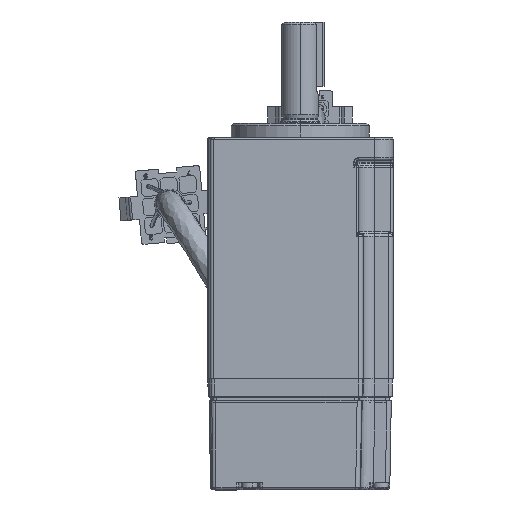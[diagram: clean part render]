
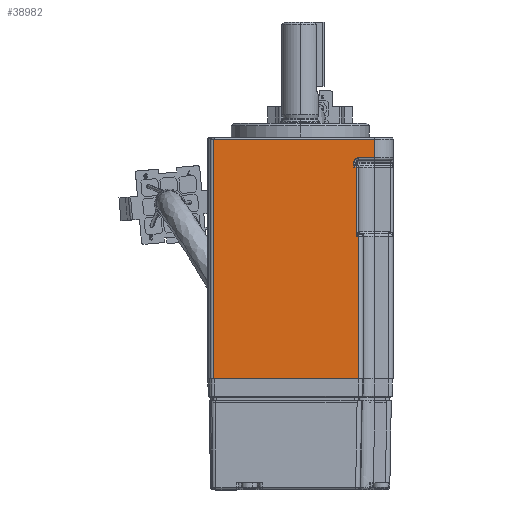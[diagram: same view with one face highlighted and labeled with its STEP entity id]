
A CAD part, front view. The second image highlights one B-rep face of the part: STEP entity #38982.
In plain terms, the highlighted planar face has unit normal (0, -1, 0).
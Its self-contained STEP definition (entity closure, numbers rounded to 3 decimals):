
#344 = CARTESIAN_POINT ( 'NONE',  ( 12.143, -20.15, -9.5 ) ) ;
#610 = ORIENTED_EDGE ( 'NONE', *, *, #29015, .T. ) ;
#612 = VERTEX_POINT ( 'NONE', #15211 ) ;
#2943 =( BOUNDED_CURVE ( )  B_SPLINE_CURVE ( 3, ( #13987, #27383, #28171, #50969 ),
 .UNSPECIFIED., .F., .F. ) 
 B_SPLINE_CURVE_WITH_KNOTS ( ( 4, 4 ),
 ( 3.142, 4.712 ),
 .UNSPECIFIED. ) 
 CURVE ( )  GEOMETRIC_REPRESENTATION_ITEM ( )  RATIONAL_B_SPLINE_CURVE ( ( 1., 0.805, 0.805, 1. ) ) 
 REPRESENTATION_ITEM ( '' )  );
#3367 = CARTESIAN_POINT ( 'NONE',  ( -18.695, -20.15, -3.507 ) ) ;
#3593 = ORIENTED_EDGE ( 'NONE', *, *, #55216, .T. ) ;
#4001 = ORIENTED_EDGE ( 'NONE', *, *, #32240, .T. ) ;
#4163 = CARTESIAN_POINT ( 'NONE',  ( -18.736, -20.15, -3.51 ) ) ;
#4608 = EDGE_CURVE ( 'NONE', #612, #15367, #26616, .T. ) ;
#4643 = VECTOR ( 'NONE', #6931, 1000. ) ;
#4973 = CARTESIAN_POINT ( 'NONE',  ( 12.143, -20.15, -24.5 ) ) ;
#5950 = AXIS2_PLACEMENT_3D ( 'NONE', #58101, #17488, #26479 ) ;
#6011 = CARTESIAN_POINT ( 'NONE',  ( -18.736, -20.15, -55.8 ) ) ;
#6018 = VECTOR ( 'NONE', #39843, 1000. ) ;
#6931 = DIRECTION ( 'NONE',  ( 0., 0., 1. ) ) ;
#7151 = LINE ( 'NONE', #20140, #25747 ) ;
#8258 = ORIENTED_EDGE ( 'NONE', *, *, #9064, .T. ) ;
#8559 = CARTESIAN_POINT ( 'NONE',  ( -18.715, -20.15, -3.508 ) ) ;
#8936 = CARTESIAN_POINT ( 'NONE',  ( 12.661, -20.15, -55.5 ) ) ;
#9064 = EDGE_CURVE ( 'NONE', #13351, #26134, #16096, .T. ) ;
#9315 = DIRECTION ( 'NONE',  ( 0., 0., 1. ) ) ;
#11548 = CARTESIAN_POINT ( 'NONE',  ( -18.736, -20.15, -3.51 ) ) ;
#12516 = CARTESIAN_POINT ( 'NONE',  ( 20.15, -20.15, -55.5 ) ) ;
#12601 = EDGE_CURVE ( 'NONE', #40700, #39941, #7151, .T. ) ;
#12667 = VERTEX_POINT ( 'NONE', #20733 ) ;
#13351 = VERTEX_POINT ( 'NONE', #4973 ) ;
#13831 = CARTESIAN_POINT ( 'NONE',  ( 11.642, -20.15, -8.5 ) ) ;
#13987 = CARTESIAN_POINT ( 'NONE',  ( 11.642, -20.15, -8.5 ) ) ;
#15211 = CARTESIAN_POINT ( 'NONE',  ( 12.643, -20.15, -7.5 ) ) ;
#15342 = CARTESIAN_POINT ( 'NONE',  ( 12.143, -20.15, -9. ) ) ;
#15367 = VERTEX_POINT ( 'NONE', #24856 ) ;
#15682 = FACE_OUTER_BOUND ( 'NONE', #19920, .T. ) ;
#16096 = LINE ( 'NONE', #15342, #4643 ) ;
#16134 = VERTEX_POINT ( 'NONE', #51171 ) ;
#17048 = VECTOR ( 'NONE', #19444, 1000. ) ;
#17488 = DIRECTION ( 'NONE',  ( 0., -1., 0. ) ) ;
#19444 = DIRECTION ( 'NONE',  ( 0., 0., -1. ) ) ;
#19590 = VERTEX_POINT ( 'NONE', #11548 ) ;
#19920 = EDGE_LOOP ( 'NONE', ( #20183, #57002, #49389, #8258, #56072, #610, #47339, #45307, #21901, #3593, #4001, #24815 ) ) ;
#20140 = CARTESIAN_POINT ( 'NONE',  ( 12.661, -20.15, -24. ) ) ;
#20183 = ORIENTED_EDGE ( 'NONE', *, *, #28950, .F. ) ;
#20507 = PLANE ( 'NONE',  #5950 ) ;
#20660 =( BOUNDED_CURVE ( )  B_SPLINE_CURVE ( 3, ( #49139, #3367, #8559, #4163 ),
 .UNSPECIFIED., .F., .F. ) 
 B_SPLINE_CURVE_WITH_KNOTS ( ( 4, 4 ),
 ( 3.665, 3.761 ),
 .UNSPECIFIED. ) 
 CURVE ( )  GEOMETRIC_REPRESENTATION_ITEM ( )  RATIONAL_B_SPLINE_CURVE ( ( 1., 0.999, 0.999, 1. ) ) 
 REPRESENTATION_ITEM ( '' )  );
#20733 = CARTESIAN_POINT ( 'NONE',  ( -18.675, -20.15, -3.507 ) ) ;
#20879 = VERTEX_POINT ( 'NONE', #21489 ) ;
#21489 = CARTESIAN_POINT ( 'NONE',  ( -18.736, -20.15, -55.5 ) ) ;
#21901 = ORIENTED_EDGE ( 'NONE', *, *, #49296, .T. ) ;
#21952 = EDGE_CURVE ( 'NONE', #39941, #13351, #29760, .T. ) ;
#23676 = CARTESIAN_POINT ( 'NONE',  ( 20.15, -20.15, -3.507 ) ) ;
#24231 = LINE ( 'NONE', #23676, #47134 ) ;
#24815 = ORIENTED_EDGE ( 'NONE', *, *, #55273, .T. ) ;
#24856 = CARTESIAN_POINT ( 'NONE',  ( 16.15, -20.15, -7.5 ) ) ;
#25747 = VECTOR ( 'NONE', #48117, 1000. ) ;
#25772 = VECTOR ( 'NONE', #25906, 1000. ) ;
#25906 = DIRECTION ( 'NONE',  ( -1., 0., 0. ) ) ;
#26134 = VERTEX_POINT ( 'NONE', #344 ) ;
#26479 = DIRECTION ( 'NONE',  ( 1., 0., 0. ) ) ;
#26616 = LINE ( 'NONE', #39490, #30187 ) ;
#27383 = CARTESIAN_POINT ( 'NONE',  ( 11.642, -20.15, -7.914 ) ) ;
#27513 = CARTESIAN_POINT ( 'NONE',  ( 11.642, -20.15, -8. ) ) ;
#28171 = CARTESIAN_POINT ( 'NONE',  ( 12.057, -20.15, -7.5 ) ) ;
#28950 = EDGE_CURVE ( 'NONE', #40700, #20879, #46530, .T. ) ;
#29015 = EDGE_CURVE ( 'NONE', #53836, #51994, #50814, .T. ) ;
#29760 = LINE ( 'NONE', #48651, #42631 ) ;
#30187 = VECTOR ( 'NONE', #34891, 1000. ) ;
#32150 = DIRECTION ( 'NONE',  ( 0., 0., 1. ) ) ;
#32240 = EDGE_CURVE ( 'NONE', #12667, #19590, #20660, .T. ) ;
#34891 = DIRECTION ( 'NONE',  ( 1., 0., 0. ) ) ;
#37210 = VECTOR ( 'NONE', #9315, 1000. ) ;
#38982 = ADVANCED_FACE ( 'NONE', ( #15682 ), #20507, .T. ) ;
#39490 = CARTESIAN_POINT ( 'NONE',  ( 16.15, -20.15, -7.5 ) ) ;
#39843 = DIRECTION ( 'NONE',  ( -1., 0., 0. ) ) ;
#39941 = VERTEX_POINT ( 'NONE', #57026 ) ;
#40700 = VERTEX_POINT ( 'NONE', #8936 ) ;
#42062 = LINE ( 'NONE', #6011, #17048 ) ;
#42521 = LINE ( 'NONE', #53678, #6018 ) ;
#42631 = VECTOR ( 'NONE', #53454, 1000. ) ;
#42795 = DIRECTION ( 'NONE',  ( -1., 0., 0. ) ) ;
#44253 = LINE ( 'NONE', #46154, #57097 ) ;
#45307 = ORIENTED_EDGE ( 'NONE', *, *, #4608, .T. ) ;
#45351 = EDGE_CURVE ( 'NONE', #51994, #612, #2943, .T. ) ;
#46154 = CARTESIAN_POINT ( 'NONE',  ( 16.15, -20.15, -55.8 ) ) ;
#46530 = LINE ( 'NONE', #12516, #25772 ) ;
#47134 = VECTOR ( 'NONE', #42795, 1000. ) ;
#47339 = ORIENTED_EDGE ( 'NONE', *, *, #45351, .T. ) ;
#48117 = DIRECTION ( 'NONE',  ( 0., 0., 1. ) ) ;
#48651 = CARTESIAN_POINT ( 'NONE',  ( 20.15, -20.15, -24.5 ) ) ;
#49139 = CARTESIAN_POINT ( 'NONE',  ( -18.675, -20.15, -3.507 ) ) ;
#49296 = EDGE_CURVE ( 'NONE', #15367, #16134, #44253, .T. ) ;
#49389 = ORIENTED_EDGE ( 'NONE', *, *, #21952, .T. ) ;
#49481 = CARTESIAN_POINT ( 'NONE',  ( 11.642, -20.15, -9.5 ) ) ;
#50814 = LINE ( 'NONE', #27513, #37210 ) ;
#50969 = CARTESIAN_POINT ( 'NONE',  ( 12.643, -20.15, -7.5 ) ) ;
#51171 = CARTESIAN_POINT ( 'NONE',  ( 16.15, -20.15, -3.507 ) ) ;
#51226 = EDGE_CURVE ( 'NONE', #26134, #53836, #42521, .T. ) ;
#51994 = VERTEX_POINT ( 'NONE', #13831 ) ;
#53454 = DIRECTION ( 'NONE',  ( -1., 0., 0. ) ) ;
#53678 = CARTESIAN_POINT ( 'NONE',  ( 20.15, -20.15, -9.5 ) ) ;
#53836 = VERTEX_POINT ( 'NONE', #49481 ) ;
#55216 = EDGE_CURVE ( 'NONE', #16134, #12667, #24231, .T. ) ;
#55273 = EDGE_CURVE ( 'NONE', #19590, #20879, #42062, .T. ) ;
#56072 = ORIENTED_EDGE ( 'NONE', *, *, #51226, .T. ) ;
#57002 = ORIENTED_EDGE ( 'NONE', *, *, #12601, .T. ) ;
#57026 = CARTESIAN_POINT ( 'NONE',  ( 12.661, -20.15, -24.5 ) ) ;
#57097 = VECTOR ( 'NONE', #32150, 1000. ) ;
#58101 = CARTESIAN_POINT ( 'NONE',  ( 20.15, -20.15, -55.8 ) ) ;
